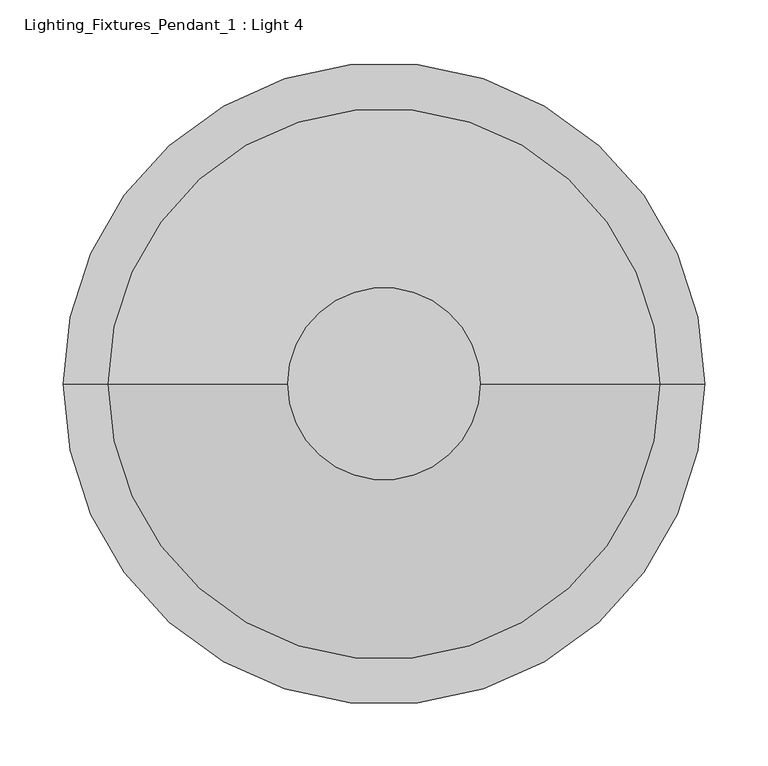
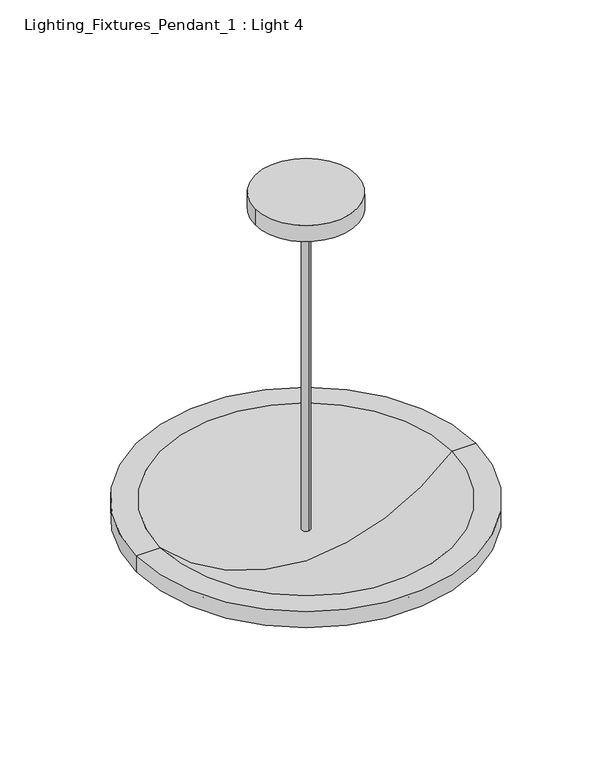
"""IFC4 building model written with IfcOpenShell, lengths in millimetres: light fixture geometry, Lighting_Fixtures_Pendant_1 : Light 4."""

from ifc_helpers import new_model, si_unit, point, frame, origin, place, context, project, spatial, polyline, circle_curve, ellipse_curve, trimmed, source, transform, mapped, element, save
from ifc_brep_helpers import plane_surface, cylinder_surface, revolved_surface, advanced_brep


def lighting_fixtures_pendant_1_light_4_38b3ee5c(model_context):
    return source(origin(), model_context, "Body", "AdvancedBrep", [
        advanced_brep(
        [(76.2, 0.0, 2438.4), (-76.2, 0.0, 2438.4), (0.0, 6.35, 1905.0000062), (0.0, -6.35, 1905.0000062), (0.0, -6.35, 2380.4284101), (-6.35, 0.0, 2380.4284101), (0.0, 6.35, 2380.4284101), (6.35, 0.0, 2380.4284101), (76.2, 0.0, 2413.0), (-76.2, 0.0, 2413.0)],
        [
            (0, 1, circle_curve(frame((0.0, 0.0, 2438.4), z_axis=(0.0, 0.0, 1.0), x_axis=(-1.0, 0.0, 0.0)), 76.2)),
            (1, 0, circle_curve(frame((0.0, 0.0, 2438.4), z_axis=(0.0, 0.0, 1.0), x_axis=(-1.0, 0.0, 0.0)), 76.2)),
            (2, 3, circle_curve(frame((0.0, 0.0, 1905.0000062), z_axis=(0.0, 0.0, -1.0), x_axis=(0.0, -1.0, 0.0)), 6.35)),
            (3, 2, circle_curve(frame((0.0, 0.0, 1905.0000062), z_axis=(0.0, 0.0, -1.0), x_axis=(0.0, -1.0, 0.0)), 6.35)),
            (3, 4),
            (4, 5, circle_curve(frame((0.0, 0.0, 2380.4284101), z_axis=(0.0, 0.0, -1.0), x_axis=(0.0, -1.0, 0.0)), 6.35)),
            (5, 6, circle_curve(frame((0.0, 0.0, 2380.4284101), z_axis=(0.0, 0.0, -1.0), x_axis=(0.0, -1.0, 0.0)), 6.35)),
            (6, 2),
            (6, 7, circle_curve(frame((0.0, 0.0, 2380.4284101), z_axis=(0.0, 0.0, -1.0), x_axis=(0.0, -1.0, 0.0)), 6.35)),
            (7, 4, circle_curve(frame((0.0, 0.0, 2380.4284101), z_axis=(0.0, 0.0, -1.0), x_axis=(0.0, -1.0, 0.0)), 6.35)),
            (8, 9, circle_curve(frame((0.0, 0.0, 2413.0), z_axis=(0.0, 0.0, 1.0), x_axis=(-1.0, 0.0, 0.0)), 76.2)),
            (9, 1),
            (0, 8),
            (9, 8, circle_curve(frame((0.0, 0.0, 2413.0), z_axis=(0.0, 0.0, 1.0), x_axis=(-1.0, 0.0, 0.0)), 76.2)),
            (8, 7),
            (5, 9),
        ],
        [
            plane_surface(frame((0.0, -6.35, 2438.4), z_axis=(0.0, 0.0, 1.0), x_axis=(1.0, 0.0, 0.0))),
            plane_surface(frame((0.0, -6.35, 1905.0000062), z_axis=(0.0, 0.0, -1.0), x_axis=(-1.0, 0.0, 0.0))),
            cylinder_surface(frame((0.0, 0.0, 1905.0000062), z_axis=(0.0, 0.0, 1.0), x_axis=(0.0, -1.0, 0.0)), 6.35),
            cylinder_surface(frame((0.0, 0.0, 2514.6), z_axis=(0.0, 0.0, -1.0), x_axis=(-1.0, 0.0, 0.0)), 76.2),
            revolved_surface(polyline([(-76.2, 0.0, 2413.0), (0.0, 0.0, 2377.4673564)]), (0.0, 0.0, 2514.6), (0.0, 0.0, -1.0)),
        ],
        [
            (0, [[1, 2]]),
            (1, [[3, 4]]),
            (2, [[-4, 5, 6, 7, 8]]),
            (2, [[-3, -8, 9, 10, -5]]),
            (3, [[11, 12, -1, 13]]),
            (3, [[-12, 14, -13, -2]]),
            (4, [[-11, 15, -9, -7, 16]]),
            (4, [[-14, -16, -6, -10, -15]]),
        ],
    ),
        advanced_brep(
        [(0.0, 0.0, 1828.7999938), (-228.9004272, 0.0, 1925.5282446), (228.9004272, 0.0, 1925.5282446), (218.3605921, 0.0, 1951.0510876), (-218.3605921, 0.0, 1951.0510876), (0.0, 0.0, 1854.1666257), (254.3004272, 0.0, 1951.0510876), (-254.3004272, 0.0, 1951.0510876), (254.3004272, 0.0, 1925.5282446), (-254.3004272, 0.0, 1925.5282446)],
        [
            (0, 1, circle_curve(frame((5.6276544, 0.0, 2161.3197309), z_axis=(0.0, 1.0, 0.0), x_axis=(0.0, 0.0, -1.0)), 332.5673556)),
            (1, 2, circle_curve(frame((0.0, 0.0, 1925.5282446), z_axis=(0.0, 0.0, -1.0), x_axis=(-1.0, 0.0, 0.0)), 228.9004272)),
            (2, 0, circle_curve(frame((-5.6276544, 0.0, 2161.3197309), z_axis=(0.0, 1.0, 0.0), x_axis=(0.0, 0.0, -1.0)), 332.5673556)),
            (2, 1, circle_curve(frame((0.0, 0.0, 1925.5282446), z_axis=(0.0, 0.0, -1.0), x_axis=(-1.0, 0.0, 0.0)), 228.9004272)),
            (3, 4, circle_curve(frame((0.0, 0.0, 1951.0510876), z_axis=(0.0, 0.0, 1.0), x_axis=(-1.0, 0.0, 0.0)), 218.3605921)),
            (4, 5, circle_curve(frame((7.2507854, 0.0, 2165.0241026), z_axis=(0.0, -1.0, 0.0), x_axis=(0.0, 0.0, -1.0)), 310.9420281)),
            (5, 3, circle_curve(frame((-7.2507854, 0.0, 2165.0241026), z_axis=(0.0, -1.0, 0.0), x_axis=(0.0, 0.0, -1.0)), 310.9420281)),
            (4, 3, circle_curve(frame((0.0, 0.0, 1951.0510876), z_axis=(0.0, 0.0, 1.0), x_axis=(-1.0, 0.0, 0.0)), 218.3605921)),
            (6, 7, circle_curve(frame((0.0, 0.0, 1951.0510876), z_axis=(0.0, 0.0, 1.0), x_axis=(-1.0, 0.0, 0.0)), 254.3004272)),
            (7, 4),
            (3, 6),
            (7, 6, circle_curve(frame((0.0, 0.0, 1951.0510876), z_axis=(0.0, 0.0, 1.0), x_axis=(-1.0, 0.0, 0.0)), 254.3004272)),
            (8, 9, circle_curve(frame((0.0, 0.0, 1925.5282446), z_axis=(0.0, 0.0, 1.0), x_axis=(-1.0, 0.0, 0.0)), 254.3004272)),
            (9, 7),
            (6, 8),
            (9, 8, circle_curve(frame((0.0, 0.0, 1925.5282446), z_axis=(0.0, 0.0, 1.0), x_axis=(-1.0, 0.0, 0.0)), 254.3004272)),
            (1, 9),
            (8, 2),
        ],
        [
            revolved_surface(trimmed(ellipse_curve(frame((5.6276544, 0.0, 2161.3197309), z_axis=(0.0, -1.0, 0.0), x_axis=(0.0, 0.0, -1.0)), 332.5673556, 332.5673556), [point((-228.9004272, 0.0, 1925.5282446))], [point((0.0, 0.0, 1828.7999938))], True, "CARTESIAN"), (0.0, 0.0, 2001.8510876), (0.0, 0.0, -1.0)),
            revolved_surface(trimmed(ellipse_curve(frame((7.2507854, 0.0, 2165.0241026), z_axis=(0.0, 1.0, 0.0), x_axis=(0.0, 0.0, -1.0)), 310.9420281, 310.9420281), [point((0.0, 0.0, 1854.1666257))], [point((-218.3605921, 0.0, 1951.0510876))], True, "CARTESIAN"), (0.0, 0.0, 2001.8510876), (0.0, 0.0, -1.0)),
            plane_surface(frame((0.0, 0.0, 1951.0510876), z_axis=(0.0, 0.0, 1.0), x_axis=(-1.0, 0.0, 0.0))),
            cylinder_surface(frame((0.0, 0.0, 2001.8510876), z_axis=(0.0, 0.0, -1.0), x_axis=(-1.0, 0.0, 0.0)), 254.3004272),
            plane_surface(frame((0.0, 0.0, 1925.5282446), z_axis=(0.0, 0.0, -1.0), x_axis=(-1.0, 0.0, 0.0))),
        ],
        [
            (0, [[1, 2, 3]]),
            (0, [[-3, 4, -1]]),
            (1, [[5, 6, 7]]),
            (1, [[8, -7, -6]]),
            (2, [[9, 10, -5, 11]]),
            (2, [[12, -11, -8, -10]]),
            (3, [[13, 14, -9, 15]]),
            (3, [[16, -15, -12, -14]]),
            (4, [[-2, 17, -13, 18]]),
            (4, [[-4, -18, -16, -17]]),
        ],
    ),
    ])


if __name__ == "__main__":
    model = new_model("IFC4")
    model_context = context("Model", 3, world=origin())
    ifc_project = project(units=[si_unit("LENGTHUNIT", "METRE", prefix="MILLI")], contexts=[model_context])
    site = spatial("IfcSite", under=ifc_project)
    building = spatial("IfcBuilding", under=site)
    placement = place(None, origin())
    lighting_fixtures_pendant_1_light_4_shape = lighting_fixtures_pendant_1_light_4_38b3ee5c(model_context)
    element("IfcLightFixture", 1, ObjectType="Lighting_Fixtures_Pendant_1 : Light 4", at=placement, inside=building, context=model_context, shape_type="MappedRepresentation", body=[
        mapped(lighting_fixtures_pendant_1_light_4_shape, transform((0.0, 0.0, 0.0), x_axis=(1.0, 0.0, 0.0), y_axis=(0.0, 1.0, 0.0), z_axis=(0.0, 0.0, 1.0))),
    ])
    save(model, "model.ifc")
